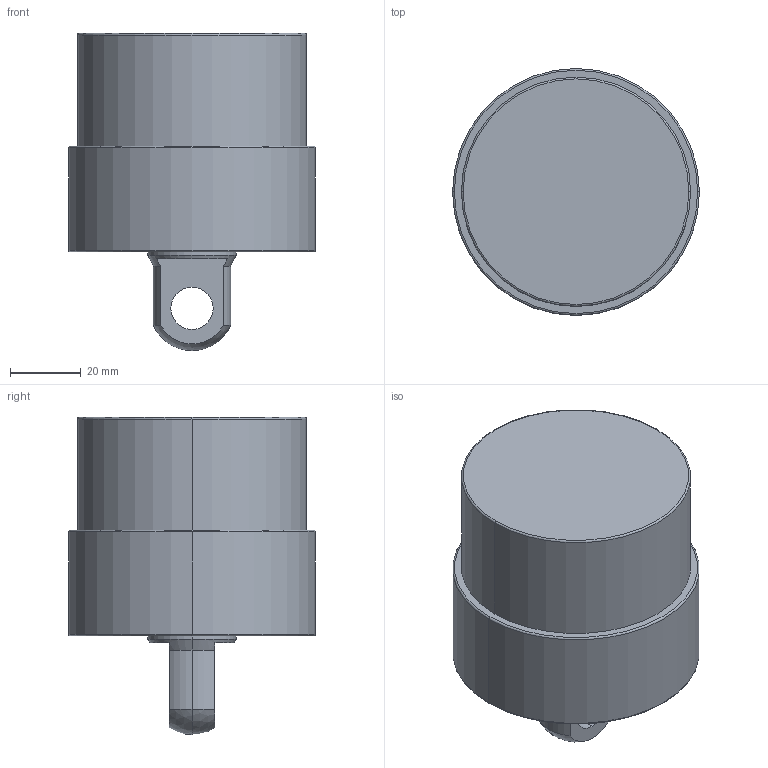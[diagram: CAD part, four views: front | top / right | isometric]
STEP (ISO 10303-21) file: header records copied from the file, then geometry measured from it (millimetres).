
FILE_DESCRIPTION (( 'STEP AP203' ), '1' );
FILE_NAME ('CLLU-065GP-015.STEP', '2020-01-06T09:17:47', ( '' ), ( '' ), 'SwSTEP 2.0', 'SolidWorks 2015', '' );
FILE_SCHEMA (( 'CONFIG_CONTROL_DESIGN' ));
Length unit declared in the file: millimetre
Products named in the file (1): CLLU-065GP-015
Bounding box: 70 x 70 x 90 mm (x, y, z)
Volume: 225827.5 mm3; surface area: 23629.7 mm2
Topology: 1 solids, 1 shells, 58 faces, 131 edges, 75 vertices
Faces by surface type: cylinder 23, cone 18, plane 9, torus 6, sphere 2
Entity records: 1658 total; most frequent: DIRECTION 311, CARTESIAN_POINT 269, ORIENTED_EDGE 246, AXIS2_PLACEMENT_3D 133, EDGE_CURVE 123, VERTEX_POINT 75, CIRCLE 74, EDGE_LOOP 68
